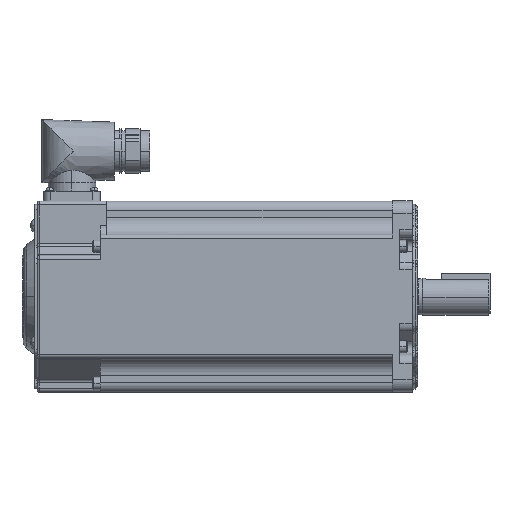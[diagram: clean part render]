
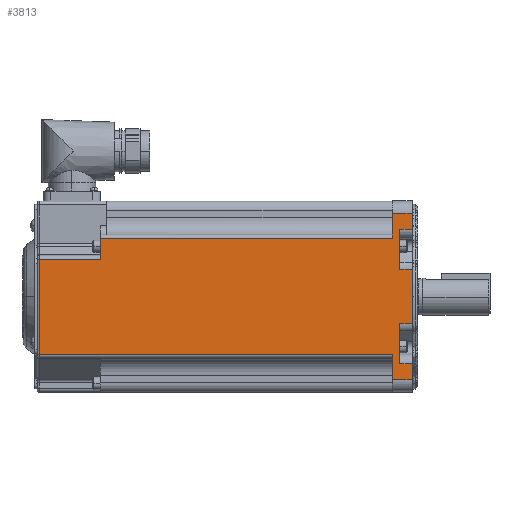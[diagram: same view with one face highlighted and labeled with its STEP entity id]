
A CAD part, top view. The second image highlights one B-rep face of the part: STEP entity #3813.
In plain terms, the highlighted planar face has unit normal (0, 0, 1) as drawn and (0, 0, -1) by its records, which use the part's own axes.
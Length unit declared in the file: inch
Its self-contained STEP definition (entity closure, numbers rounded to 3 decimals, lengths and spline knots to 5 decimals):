
#3813 = ADVANCED_FACE ( 'NONE', ( #26751 ), #14862, .F. ) ;
#6269 = CARTESIAN_POINT ( 'NONE',  ( -6.315, -0.755, -1.935 ) ) ;
#6270 = CARTESIAN_POINT ( 'NONE',  ( -6.315, -1.1825, -1.935 ) ) ;
#6306 = CARTESIAN_POINT ( 'NONE',  ( -0.25, -1.36314, -1.935 ) ) ;
#6307 = CARTESIAN_POINT ( 'NONE',  ( -0.25, -0.54835, -1.935 ) ) ;
#6319 = CARTESIAN_POINT ( 'NONE',  ( -0.25, 0.54835, -1.935 ) ) ;
#6363 = CARTESIAN_POINT ( 'NONE',  ( -0.25, 1.36314, -1.935 ) ) ;
#6384 = CARTESIAN_POINT ( 'NONE',  ( 0., -1.685, -1.935 ) ) ;
#6385 = CARTESIAN_POINT ( 'NONE',  ( 0., -1.36314, -1.935 ) ) ;
#6386 = CARTESIAN_POINT ( 'NONE',  ( -0.4, -1.685, -1.935 ) ) ;
#6387 = CARTESIAN_POINT ( 'NONE',  ( -0.4, -1.1825, -1.935 ) ) ;
#6388 = CARTESIAN_POINT ( 'NONE',  ( -7.55, -0.755, -1.935 ) ) ;
#6389 = CARTESIAN_POINT ( 'NONE',  ( -7.55, 1.1825, -1.935 ) ) ;
#6390 = CARTESIAN_POINT ( 'NONE',  ( -0.4, 1.1825, -1.935 ) ) ;
#6391 = CARTESIAN_POINT ( 'NONE',  ( -0.4, 1.685, -1.935 ) ) ;
#6392 = CARTESIAN_POINT ( 'NONE',  ( 0., 1.685, -1.935 ) ) ;
#6393 = CARTESIAN_POINT ( 'NONE',  ( 0., 1.36314, -1.935 ) ) ;
#6394 = CARTESIAN_POINT ( 'NONE',  ( 0., 0.54835, -1.935 ) ) ;
#6395 = CARTESIAN_POINT ( 'NONE',  ( 0., -0.54835, -1.935 ) ) ;
#9559 = LINE ( 'NONE', #9560, #22615 ) ;
#9560 = CARTESIAN_POINT ( 'NONE',  ( -6.315, -1.935, -1.935 ) ) ;
#9561 = DIRECTION ( 'NONE',  ( 0., -1., 0. ) ) ;
#9688 = LINE ( 'NONE', #9689, #22658 ) ;
#9689 = CARTESIAN_POINT ( 'NONE',  ( -0.25, -0.6312, -1.935 ) ) ;
#9690 = DIRECTION ( 'NONE',  ( 0., 1., 0. ) ) ;
#9751 = LINE ( 'NONE', #9752, #22679 ) ;
#9752 = CARTESIAN_POINT ( 'NONE',  ( -0.25, 0.6312, -1.935 ) ) ;
#9753 = DIRECTION ( 'NONE',  ( 0., 1., 0. ) ) ;
#9829 = LINE ( 'NONE', #9830, #22703 ) ;
#9830 = CARTESIAN_POINT ( 'NONE',  ( -6.19, -1.685, -1.935 ) ) ;
#9831 = DIRECTION ( 'NONE',  ( -1., 0., 0. ) ) ;
#9832 = LINE ( 'NONE', #9833, #22704 ) ;
#9833 = CARTESIAN_POINT ( 'NONE',  ( 0., -1.935, -1.935 ) ) ;
#9834 = DIRECTION ( 'NONE',  ( 0., 1., 0. ) ) ;
#9835 = LINE ( 'NONE', #9836, #22705 ) ;
#9836 = CARTESIAN_POINT ( 'NONE',  ( -0.4, -1.935, -1.935 ) ) ;
#9837 = DIRECTION ( 'NONE',  ( 0., 1., 0. ) ) ;
#9838 = LINE ( 'NONE', #9839, #22706 ) ;
#9839 = CARTESIAN_POINT ( 'NONE',  ( -6.19, -1.1825, -1.935 ) ) ;
#9840 = DIRECTION ( 'NONE',  ( -1., 0., 0. ) ) ;
#9841 = LINE ( 'NONE', #9842, #22707 ) ;
#9842 = CARTESIAN_POINT ( 'NONE',  ( -6.19, -0.755, -1.935 ) ) ;
#9843 = DIRECTION ( 'NONE',  ( -1., 0., 0. ) ) ;
#9844 = LINE ( 'NONE', #9845, #22708 ) ;
#9845 = CARTESIAN_POINT ( 'NONE',  ( -7.55, 1.1825, -1.935 ) ) ;
#9846 = DIRECTION ( 'NONE',  ( 0., 1., 0. ) ) ;
#9847 = LINE ( 'NONE', #9848, #22709 ) ;
#9848 = CARTESIAN_POINT ( 'NONE',  ( -6.19, 1.1825, -1.935 ) ) ;
#9849 = DIRECTION ( 'NONE',  ( 1., 0., 0. ) ) ;
#9850 = LINE ( 'NONE', #9851, #22710 ) ;
#9851 = CARTESIAN_POINT ( 'NONE',  ( -0.4, -1.935, -1.935 ) ) ;
#9852 = DIRECTION ( 'NONE',  ( 0., 1., 0. ) ) ;
#9853 = LINE ( 'NONE', #9854, #22711 ) ;
#9854 = CARTESIAN_POINT ( 'NONE',  ( -6.19, 1.685, -1.935 ) ) ;
#9855 = DIRECTION ( 'NONE',  ( 1., 0., 0. ) ) ;
#9856 = LINE ( 'NONE', #9857, #22712 ) ;
#9857 = CARTESIAN_POINT ( 'NONE',  ( 0., -1.935, -1.935 ) ) ;
#9858 = DIRECTION ( 'NONE',  ( 0., 1., 0. ) ) ;
#9859 = LINE ( 'NONE', #9860, #22713 ) ;
#9860 = CARTESIAN_POINT ( 'NONE',  ( -6.19, 1.36314, -1.935 ) ) ;
#9861 = DIRECTION ( 'NONE',  ( -1., 0., 0. ) ) ;
#9862 = LINE ( 'NONE', #9863, #22714 ) ;
#9863 = CARTESIAN_POINT ( 'NONE',  ( -6.19, 0.54835, -1.935 ) ) ;
#9864 = DIRECTION ( 'NONE',  ( 1., 0., 0. ) ) ;
#9865 = LINE ( 'NONE', #9866, #22715 ) ;
#9866 = CARTESIAN_POINT ( 'NONE',  ( 0., -1.935, -1.935 ) ) ;
#9867 = DIRECTION ( 'NONE',  ( 0., 1., 0. ) ) ;
#9868 = LINE ( 'NONE', #9869, #22716 ) ;
#9869 = CARTESIAN_POINT ( 'NONE',  ( -6.19, -0.54835, -1.935 ) ) ;
#9870 = DIRECTION ( 'NONE',  ( -1., 0., 0. ) ) ;
#9871 = LINE ( 'NONE', #9872, #22717 ) ;
#9872 = CARTESIAN_POINT ( 'NONE',  ( -6.19, -1.36314, -1.935 ) ) ;
#9873 = DIRECTION ( 'NONE',  ( 1., 0., 0. ) ) ;
#14862 = PLANE ( 'NONE',  #26753 ) ;
#14863 = CARTESIAN_POINT ( 'NONE',  ( -6.19, 1.245, -1.935 ) ) ;
#14864 = DIRECTION ( 'NONE',  ( 0., 0., 1. ) ) ;
#14865 = DIRECTION ( 'NONE',  ( 0., -1., 0. ) ) ;
#22615 = VECTOR ( 'NONE', #9561, 39.37008 ) ;
#22658 = VECTOR ( 'NONE', #9690, 39.37008 ) ;
#22679 = VECTOR ( 'NONE', #9753, 39.37008 ) ;
#22703 = VECTOR ( 'NONE', #9831, 39.37008 ) ;
#22704 = VECTOR ( 'NONE', #9834, 39.37008 ) ;
#22705 = VECTOR ( 'NONE', #9837, 39.37008 ) ;
#22706 = VECTOR ( 'NONE', #9840, 39.37008 ) ;
#22707 = VECTOR ( 'NONE', #9843, 39.37008 ) ;
#22708 = VECTOR ( 'NONE', #9846, 39.37008 ) ;
#22709 = VECTOR ( 'NONE', #9849, 39.37008 ) ;
#22710 = VECTOR ( 'NONE', #9852, 39.37008 ) ;
#22711 = VECTOR ( 'NONE', #9855, 39.37008 ) ;
#22712 = VECTOR ( 'NONE', #9858, 39.37008 ) ;
#22713 = VECTOR ( 'NONE', #9861, 39.37008 ) ;
#22714 = VECTOR ( 'NONE', #9864, 39.37008 ) ;
#22715 = VECTOR ( 'NONE', #9867, 39.37008 ) ;
#22716 = VECTOR ( 'NONE', #9870, 39.37008 ) ;
#22717 = VECTOR ( 'NONE', #9873, 39.37008 ) ;
#25692 = VERTEX_POINT ( 'NONE', #6269 ) ;
#25693 = VERTEX_POINT ( 'NONE', #6270 ) ;
#25729 = VERTEX_POINT ( 'NONE', #6306 ) ;
#25730 = VERTEX_POINT ( 'NONE', #6307 ) ;
#25742 = VERTEX_POINT ( 'NONE', #6319 ) ;
#25823 = EDGE_LOOP ( 'NONE', ( #29816, #29818, #29817, #29819, #29820, #29821, #29823, #29822, #29824, #29825, #29826, #29827, #29828, #29829, #29831, #29830, #29832, #29833 ) ) ;
#26193 = VERTEX_POINT ( 'NONE', #6363 ) ;
#26214 = VERTEX_POINT ( 'NONE', #6384 ) ;
#26215 = VERTEX_POINT ( 'NONE', #6385 ) ;
#26216 = VERTEX_POINT ( 'NONE', #6386 ) ;
#26217 = VERTEX_POINT ( 'NONE', #6387 ) ;
#26218 = VERTEX_POINT ( 'NONE', #6388 ) ;
#26219 = VERTEX_POINT ( 'NONE', #6389 ) ;
#26220 = VERTEX_POINT ( 'NONE', #6390 ) ;
#26221 = VERTEX_POINT ( 'NONE', #6391 ) ;
#26222 = VERTEX_POINT ( 'NONE', #6392 ) ;
#26223 = VERTEX_POINT ( 'NONE', #6393 ) ;
#26224 = VERTEX_POINT ( 'NONE', #6394 ) ;
#26225 = VERTEX_POINT ( 'NONE', #6395 ) ;
#26751 = FACE_OUTER_BOUND ( 'NONE', #25823, .T. ) ;
#26753 = AXIS2_PLACEMENT_3D ( 'NONE', #14863, #14864, #14865 ) ;
#29816 = ORIENTED_EDGE ( 'NONE', *, *, #35582, .F. ) ;
#29817 = ORIENTED_EDGE ( 'NONE', *, *, #35583, .T. ) ;
#29818 = ORIENTED_EDGE ( 'NONE', *, *, #35581, .T. ) ;
#29819 = ORIENTED_EDGE ( 'NONE', *, *, #35584, .T. ) ;
#29820 = ORIENTED_EDGE ( 'NONE', *, *, #35491, .F. ) ;
#29821 = ORIENTED_EDGE ( 'NONE', *, *, #35585, .T. ) ;
#29822 = ORIENTED_EDGE ( 'NONE', *, *, #35587, .T. ) ;
#29823 = ORIENTED_EDGE ( 'NONE', *, *, #35586, .T. ) ;
#29824 = ORIENTED_EDGE ( 'NONE', *, *, #35588, .T. ) ;
#29825 = ORIENTED_EDGE ( 'NONE', *, *, #35589, .T. ) ;
#29826 = ORIENTED_EDGE ( 'NONE', *, *, #35590, .F. ) ;
#29827 = ORIENTED_EDGE ( 'NONE', *, *, #35591, .T. ) ;
#29828 = ORIENTED_EDGE ( 'NONE', *, *, #35555, .F. ) ;
#29829 = ORIENTED_EDGE ( 'NONE', *, *, #35592, .T. ) ;
#29830 = ORIENTED_EDGE ( 'NONE', *, *, #35594, .T. ) ;
#29831 = ORIENTED_EDGE ( 'NONE', *, *, #35593, .F. ) ;
#29832 = ORIENTED_EDGE ( 'NONE', *, *, #35534, .F. ) ;
#29833 = ORIENTED_EDGE ( 'NONE', *, *, #35595, .T. ) ;
#35491 = EDGE_CURVE ( 'NONE', #25692, #25693, #9559, .T. ) ;
#35534 = EDGE_CURVE ( 'NONE', #25729, #25730, #9688, .T. ) ;
#35555 = EDGE_CURVE ( 'NONE', #25742, #26193, #9751, .T. ) ;
#35581 = EDGE_CURVE ( 'NONE', #26214, #26216, #9829, .T. ) ;
#35582 = EDGE_CURVE ( 'NONE', #26214, #26215, #9832, .T. ) ;
#35583 = EDGE_CURVE ( 'NONE', #26216, #26217, #9835, .T. ) ;
#35584 = EDGE_CURVE ( 'NONE', #26217, #25693, #9838, .T. ) ;
#35585 = EDGE_CURVE ( 'NONE', #25692, #26218, #9841, .T. ) ;
#35586 = EDGE_CURVE ( 'NONE', #26218, #26219, #9844, .T. ) ;
#35587 = EDGE_CURVE ( 'NONE', #26219, #26220, #9847, .T. ) ;
#35588 = EDGE_CURVE ( 'NONE', #26220, #26221, #9850, .T. ) ;
#35589 = EDGE_CURVE ( 'NONE', #26221, #26222, #9853, .T. ) ;
#35590 = EDGE_CURVE ( 'NONE', #26223, #26222, #9856, .T. ) ;
#35591 = EDGE_CURVE ( 'NONE', #26223, #26193, #9859, .T. ) ;
#35592 = EDGE_CURVE ( 'NONE', #25742, #26224, #9862, .T. ) ;
#35593 = EDGE_CURVE ( 'NONE', #26225, #26224, #9865, .T. ) ;
#35594 = EDGE_CURVE ( 'NONE', #26225, #25730, #9868, .T. ) ;
#35595 = EDGE_CURVE ( 'NONE', #25729, #26215, #9871, .T. ) ;
